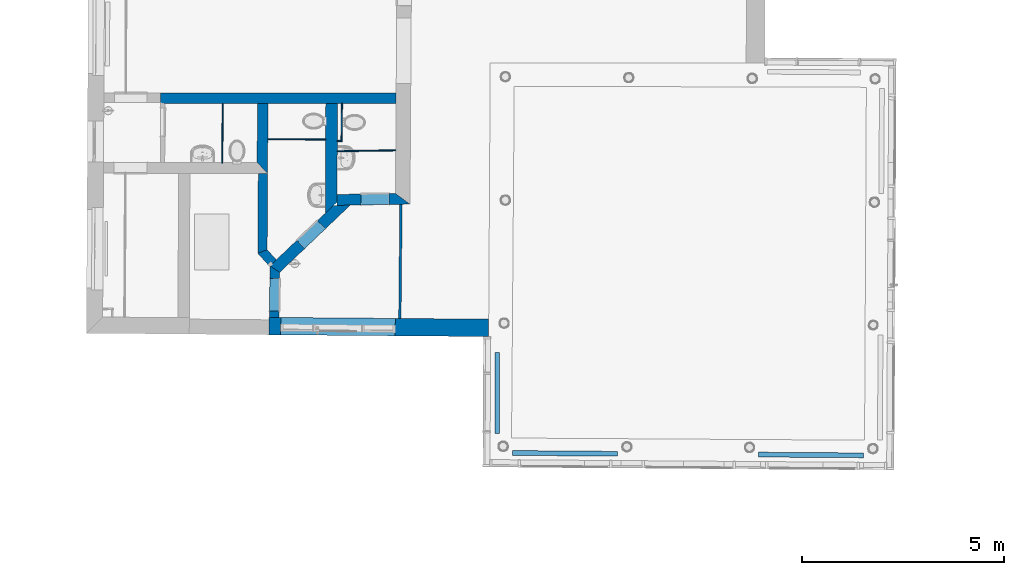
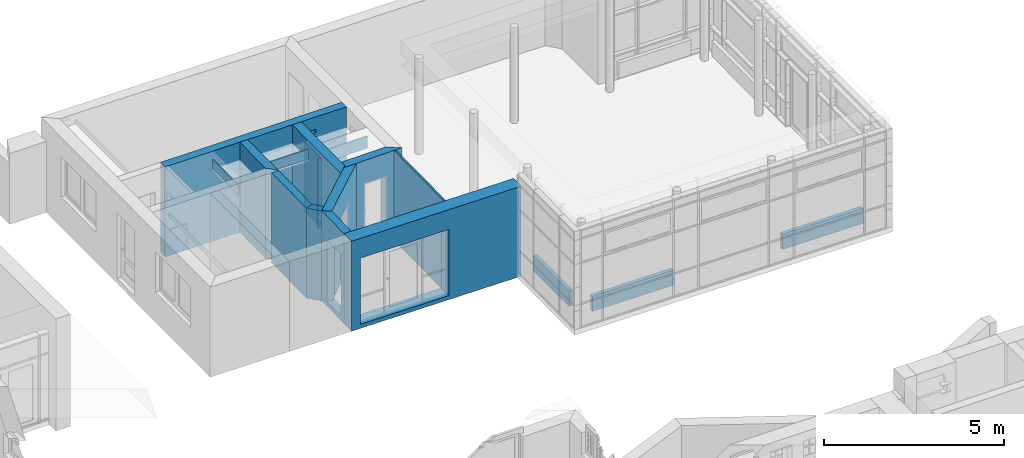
# One storey, part 55 of 196: 18 walls, 5 openings.
"""IFC2X3 building model written with IfcOpenShell, lengths in metres."""

import ifcopenshell
import ifcopenshell.guid

model = None  # the IFC model being written
_history = None  # IfcOwnerHistory: only IFC2X3 demands one
_inside = {}  # id of a spatial element -> (the spatial element, [elements in it])
_under = {}  # id of a project, library or spatial element -> (it, [spatial elements below it])
_declared = {}  # id of a project -> (the project, [libraries it declares])
_typed = {}  # id of a type object -> (the type object, [elements of that type])
_made_of = {}  # id of a material, layer set ... -> (it, [elements and type objects made of it])


def new_model(schema):
    """Start an empty IFC model of exactly this schema.

    Asked for "IFC4X3", IfcOpenShell would pick the latest addendum, in which some entities
    have other attributes; the version numbers below select the first issue.
    IFC2X3 requires an IfcOwnerHistory on every rooted entity: one is made here for all.
    """
    global model, _history
    if schema == "IFC4X3":
        model = ifcopenshell.file(schema_version=(4, 3, 0, 0))
    else:
        model = ifcopenshell.file(schema=schema)
    _inside.clear()
    _under.clear()
    _declared.clear()
    _typed.clear()
    _made_of.clear()
    _history = None
    if model.schema == "IFC2X3":
        org = make("IfcOrganization", Name="unknown")
        user = make(
            "IfcPersonAndOrganization",
            ThePerson=make("IfcPerson", FamilyName="unknown"),
            TheOrganization=org,
        )
        app = make(
            "IfcApplication",
            ApplicationDeveloper=org,
            Version="unknown",
            ApplicationFullName="unknown",
            ApplicationIdentifier="unknown",
        )
        _history = make(
            "IfcOwnerHistory",
            OwningUser=user,
            OwningApplication=app,
            ChangeAction="ADDED",
            CreationDate=0,
        )
    return model


def make(cls, **values):
    """One entity of the class cls with the attributes given. An attribute that is None is left unset."""
    return model.create_entity(
        cls, **{name: value for name, value in values.items() if value is not None}
    )


def entity(cls, *values):
    """Any entity or typed value of the class cls, its attributes in the order of the schema. None: left unset."""
    e = model.create_entity(cls)
    for i, value in enumerate(values):
        if value is not None:
            e[i] = value
    return e


def rooted(cls, **values):
    """An entity with a GlobalId (a new one), such as an element, a storey or a relation."""
    return make(cls, GlobalId=ifcopenshell.guid.new(), OwnerHistory=_history, **values)


def si_unit(unit_type, name, prefix=None):
    """IfcSIUnit, for example si_unit("LENGTHUNIT", "METRE", prefix="MILLI")."""
    return make("IfcSIUnit", UnitType=unit_type, Prefix=prefix, Name=name)


def converted_unit(unit_type, name, factor, base, dimensions=None, offset=None):
    """IfcConversionBasedUnit, such as the inch: factor (a typed value) times the base unit."""
    return make(
        "IfcConversionBasedUnit"
        if offset is None
        else "IfcConversionBasedUnitWithOffset",
        ConversionOffset=offset,
        Dimensions=None
        if dimensions is None
        else entity("IfcDimensionalExponents", *dimensions),
        UnitType=unit_type,
        Name=name,
        ConversionFactor=make(
            "IfcMeasureWithUnit", ValueComponent=factor, UnitComponent=base
        ),
    )


def derived_unit(unit_type, elements):
    """IfcDerivedUnit: a product of units, each with its exponent."""
    return make(
        "IfcDerivedUnit",
        Elements=[
            make("IfcDerivedUnitElement", Unit=unit, Exponent=power)
            for unit, power in elements
        ],
        UnitType=unit_type,
    )


def money_unit(currency):
    """IfcMonetaryUnit."""
    return make("IfcMonetaryUnit", Currency=currency)


def assignment(units):
    """IfcUnitAssignment: the units of a project."""
    return None if units is None else make("IfcUnitAssignment", Units=units)


def point(xyz):
    """IfcCartesianPoint."""
    return None if xyz is None else make("IfcCartesianPoint", Coordinates=xyz)


def direction(xyz):
    """IfcDirection."""
    return None if xyz is None else make("IfcDirection", DirectionRatios=xyz)


def frame(location, z_axis=None, x_axis=None):
    """IfcAxis2Placement3D, a coordinate frame: its origin and axes. An axis left out is left unset."""
    return make(
        "IfcAxis2Placement3D",
        Location=point(location),
        Axis=direction(z_axis),
        RefDirection=direction(x_axis),
    )


def frame_2d(location, x_axis=None):
    """IfcAxis2Placement2D, a coordinate frame in the plane: its origin and x axis."""
    return make(
        "IfcAxis2Placement2D", Location=point(location), RefDirection=direction(x_axis)
    )


def origin_with_axes():
    """The frame at (0, 0, 0) with the z axis (0, 0, 1) and the x axis (1, 0, 0) written out."""
    return frame((0.0, 0.0, 0.0), z_axis=(0.0, 0.0, 1.0), x_axis=(1.0, 0.0, 0.0))


def origin_2d_with_axis():
    """The frame at (0, 0) in the plane with the x axis (1, 0) written out."""
    return frame_2d((0.0, 0.0), x_axis=(1.0, 0.0))


def place(relative_to, where):
    """IfcLocalPlacement: puts the frame where relative to a parent placement (None: the world)."""
    return make(
        "IfcLocalPlacement", PlacementRelTo=relative_to, RelativePlacement=where
    )


def context(
    kind, dimensions, precision=None, world=None, true_north=None, identifier=None
):
    """IfcGeometricRepresentationContext, for example the 3D "Model" context."""
    return make(
        "IfcGeometricRepresentationContext",
        ContextIdentifier=identifier,
        ContextType=kind,
        CoordinateSpaceDimension=dimensions,
        Precision=precision,
        WorldCoordinateSystem=world,
        TrueNorth=true_north,
    )


def subcontext(parent, identifier, kind, view, scale=None):
    """IfcGeometricRepresentationSubContext, for example "Body" below "Model"."""
    return make(
        "IfcGeometricRepresentationSubContext",
        ContextIdentifier=identifier,
        ContextType=kind,
        ParentContext=parent,
        TargetScale=scale,
        TargetView=view,
    )


def project(units=None, contexts=None):
    """IfcProject with its units and contexts."""
    return rooted(
        "IfcProject",
        Name="project",
        RepresentationContexts=contexts,
        UnitsInContext=assignment(units),
    )


def spatial(cls, under=None, at=None, **own):
    """A site, building, storey or space (cls), placed at a placement, below another one or the project."""
    s = rooted(cls, ObjectPlacement=at, **own)
    if under is not None:
        _under.setdefault(under.id(), (under, []))[1].append(s)
    return s


def polyline(points):
    """IfcPolyline through the points."""
    return make("IfcPolyline", Points=[point(p) for p in points])


def profile(cls, at=None, kind="AREA", **sizes):
    """A parametric profile (cls). Its sizes go by their IFC names, for example OverallWidth=200.0."""
    return make(cls, ProfileType=kind, Position=at, **sizes)


def rectangle(**sizes):
    """IfcRectangleProfileDef."""
    return profile("IfcRectangleProfileDef", **sizes)


def outline(outer, holes=None, kind="AREA"):
    """IfcArbitraryClosedProfileDef: a profile drawn as a closed curve; with holes, ...WithVoids."""
    if holes is None:
        return make("IfcArbitraryClosedProfileDef", ProfileType=kind, OuterCurve=outer)
    return make(
        "IfcArbitraryProfileDefWithVoids",
        ProfileType=kind,
        OuterCurve=outer,
        InnerCurves=holes,
    )


def extrude(swept, where, along, depth):
    """IfcExtrudedAreaSolid: the profile swept, set in the frame where, extruded along a direction by depth."""
    return make(
        "IfcExtrudedAreaSolid",
        SweptArea=swept,
        Position=where,
        ExtrudedDirection=direction(along),
        Depth=depth,
    )


def faces_of(points, faces, orient=None, outer=None):
    """IfcFace entities. A face is a list of loops; a loop is a list of indices into points, from 0.

    orient and outer hold one flag for each loop. By default every Orientation is true, the
    first loop of a face is its IfcFaceOuterBound and the others are IfcFaceBound.
    """
    made = []
    for i, loops in enumerate(faces):
        bounds = []
        for j, loop in enumerate(loops):
            is_outer = j == 0 if outer is None else outer[i][j]
            bounds.append(
                make(
                    "IfcFaceOuterBound" if is_outer else "IfcFaceBound",
                    Bound=make("IfcPolyLoop", Polygon=[points[k] for k in loop]),
                    Orientation=True if orient is None else orient[i][j],
                )
            )
        made.append(make("IfcFace", Bounds=bounds))
    return made


def faceted_brep(points, faces, orient=None, outer=None, voids=None):
    """IfcFacetedBrep: a solid bounded by flat faces; with voids (closed shells), ...WithVoids."""
    shared = [point(p) for p in points]
    hull = make("IfcClosedShell", CfsFaces=faces_of(shared, faces, orient, outer))
    if voids is None:
        return make("IfcFacetedBrep", Outer=hull)
    return make(
        "IfcFacetedBrepWithVoids",
        Outer=hull,
        Voids=[
            make(cls, CfsFaces=faces_of(shared, fs, o, b)) for cls, fs, o, b in voids
        ],
    )


def shape(context_of_items, identifier, shape_type, items):
    """IfcShapeRepresentation: the items that make up one representation, for example the "Body"."""
    return make(
        "IfcShapeRepresentation",
        ContextOfItems=context_of_items,
        RepresentationIdentifier=identifier,
        RepresentationType=shape_type,
        Items=items,
    )


def material(Name=None, Category=None):
    """IfcMaterial."""
    return make("IfcMaterial", Name=Name, Category=Category)


def layer(
    of_material, thickness, ventilated=None, Name=None, Category=None, Priority=None
):
    """IfcMaterialLayer: one layer of a wall or slab, of a material (None: an air gap)."""
    return make(
        "IfcMaterialLayer",
        Material=of_material,
        LayerThickness=thickness,
        IsVentilated=ventilated,
        Name=Name,
        Category=Category,
        Priority=Priority,
    )


def layer_set(layers, Name=None):
    """IfcMaterialLayerSet."""
    return make("IfcMaterialLayerSet", MaterialLayers=layers, LayerSetName=Name)


def layer_usage(for_layer_set, set_direction, sense, offset, extent=None):
    """IfcMaterialLayerSetUsage: how a layer set lies in its element."""
    return make(
        "IfcMaterialLayerSetUsage",
        ForLayerSet=for_layer_set,
        LayerSetDirection=set_direction,
        DirectionSense=sense,
        OffsetFromReferenceLine=offset,
        ReferenceExtent=extent,
    )


def made_of(thing, what):
    """Note that an element or type object is made of a material, layer set ...; save() writes the relation."""
    if what is not None:
        _made_of.setdefault(what.id(), (what, []))[1].append(thing)
    return thing


def type_object(cls, material=None, **own):
    """A type object (cls), such as IfcWallType, which elements share."""
    return made_of(rooted(cls, **own), material)


def element(
    cls,
    number,
    at=None,
    inside=None,
    cuts=None,
    type_object=None,
    material=None,
    context=None,
    identifier="Body",
    shape_type=None,
    held_by="IfcProductDefinitionShape",
    body=None,
    shapes=None,
    **own,
):
    """One element of the class cls, such as IfcWall. Its Tag is "e" and its number.

    at: its placement. inside: the storey or other place that contains it. cuts: it is an
    opening in that element (IfcRelVoidsElement). A single representation is given by context,
    identifier, shape_type and body (its items); several are given by shapes. held_by: the class
    of the entity that holds the representations. save() writes the other relations.
    """
    e = rooted(cls, Tag="e%d" % number, ObjectPlacement=at, **own)
    if body is not None:
        shapes = [shape(context, identifier, shape_type, body)]
    if shapes is not None:
        e.Representation = make(held_by, Representations=shapes)
    if inside is not None:
        _inside.setdefault(inside.id(), (inside, []))[1].append(e)
    if cuts is not None:
        rooted(
            "IfcRelVoidsElement", RelatingBuildingElement=cuts, RelatedOpeningElement=e
        )
    if type_object is not None:
        _typed.setdefault(type_object.id(), (type_object, []))[1].append(e)
    return made_of(e, material)


def aggregate(whole, parts):
    """IfcRelAggregates: a whole, such as a stair, and the parts it consists of."""
    return rooted("IfcRelAggregates", RelatingObject=whole, RelatedObjects=parts)


def save(model, path):
    """Write the relations noted so far, then the file.

    IfcRelAggregates (storeys below a building ...), IfcRelContainedInSpatialStructure (elements
    in a storey), IfcRelDefinesByType, IfcRelAssociatesMaterial and IfcRelDeclares: one each for
    every whole, place, type object, material and project.
    """
    for whole, parts in _under.values():
        aggregate(whole, parts)
    for where, things in _inside.values():
        rooted(
            "IfcRelContainedInSpatialStructure",
            RelatedElements=things,
            RelatingStructure=where,
        )
    for kind, things in _typed.values():
        rooted("IfcRelDefinesByType", RelatedObjects=things, RelatingType=kind)
    for what, things in _made_of.values():
        rooted("IfcRelAssociatesMaterial", RelatedObjects=things, RelatingMaterial=what)
    for by, libraries in _declared.values():
        rooted("IfcRelDeclares", RelatingContext=by, RelatedDefinitions=libraries)
    model.write(path)


model = new_model("IFC2X3")

# Units and contexts
model_context = context("Model", 3, precision=1e-05, world=origin_with_axes(), true_north=direction((0.0, 1.0)))
body_context = subcontext(model_context, "Body", "Model", "MODEL_VIEW")
ifc_project = project(units=[si_unit("LENGTHUNIT", "METRE"), si_unit("AREAUNIT", "SQUARE_METRE"), si_unit("VOLUMEUNIT", "CUBIC_METRE"), converted_unit("PLANEANGLEUNIT", "DEGREE", entity("IfcPlaneAngleMeasure", 0.0174532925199), si_unit("PLANEANGLEUNIT", "RADIAN"), dimensions=[0, 0, 0, 0, 0, 0, 0]), money_unit("EUR"), converted_unit("TIMEUNIT", "Year", entity("IfcTimeMeasure", 31556926.0), si_unit("TIMEUNIT", "SECOND"), dimensions=[0, 0, 1, 0, 0, 0, 0]), si_unit("MASSUNIT", "GRAM", prefix="KILO"), si_unit("THERMODYNAMICTEMPERATUREUNIT", "DEGREE_CELSIUS"), si_unit("LUMINOUSINTENSITYUNIT", "LUMEN"), si_unit("ENERGYUNIT", "JOULE", prefix="MEGA"), derived_unit("THERMALCONDUCTANCEUNIT", [(si_unit("POWERUNIT", "WATT"), 1), (si_unit("LENGTHUNIT", "METRE"), -1), (si_unit("THERMODYNAMICTEMPERATUREUNIT", "KELVIN"), -1)]), derived_unit("SPECIFICHEATCAPACITYUNIT", [(si_unit("ENERGYUNIT", "JOULE"), 1), (si_unit("MASSUNIT", "GRAM", prefix="KILO"), -1), (si_unit("THERMODYNAMICTEMPERATUREUNIT", "KELVIN"), -1)]), derived_unit("MASSDENSITYUNIT", [(si_unit("MASSUNIT", "GRAM", prefix="KILO"), 1), (si_unit("VOLUMEUNIT", "CUBIC_METRE"), -1)])], contexts=[model_context])

# Site, building, storey
site_placement = place(None, origin_with_axes())
site = spatial("IfcSite", under=ifc_project, at=site_placement, Name="Gelände", CompositionType="ELEMENT")
building_placement = place(site_placement, origin_with_axes())
building = spatial("IfcBuilding", under=site, at=building_placement, Name="Gebäude", CompositionType="ELEMENT")
storey_placement = place(building_placement, frame((0.0, 0.0, -3.0), z_axis=(0.0, 0.0, 1.0), x_axis=(1.0, 0.0, 0.0)))
storey = spatial("IfcBuildingStorey", under=building, at=storey_placement, Name="KELLERGESCHOSS", CompositionType="ELEMENT", Elevation=-3.0)

# Wall, opening
ifc_material_1 = material(Name="05_ALLGEMEIN - TRAGENDE BAUTEILE")
ifc_layer_1 = layer(ifc_material_1, 0.28, ventilated="UNKNOWN")
ifc_layer_set_1 = layer_set([ifc_layer_1], Name="05_ALLGEMEIN - TRAGENDE BAUTEILE 0.28")
ifc_layer_usage_1 = layer_usage(ifc_layer_set_1, "AXIS2", "POSITIVE", 0.0)
wall_type_1 = type_object("IfcWallType", Name="05_ALLGEMEIN - TRAGENDE BAUTEILE 280", PredefinedType="ELEMENTEDWALL")
wall_1_placement = place(storey_placement, frame((-4.68294172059, 42.2519038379, 0.44), z_axis=(0.0, 0.0, 1.0), x_axis=(-0.724111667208, -0.68968274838, 0.0)))
wall_1 = element("IfcWallStandardCase", 1, at=wall_1_placement, inside=storey, type_object=wall_type_1, material=ifc_layer_usage_1, Name="Wand-031", ObjectType="ELEMENTEDWALL", context=body_context, shape_type="SweptSolid", body=[
    extrude(outline(polyline([(0.0, 0.0), (2.16627254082, 0.0), (2.105137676, 0.28), (-0.304052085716, 0.28), (0.0, 0.0)])), origin_with_axes(), (0.0, 0.0, 1.0), 3.06),
])
opening_1_placement = place(wall_1_placement, frame((0.898385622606, 0.0, 0.17), z_axis=(0.0, 0.0, 1.0), x_axis=(1.0, 0.0, 0.0)))
element("IfcOpeningElement", 2, at=opening_1_placement, cuts=wall_1, Name="Tür-022", context=body_context, shape_type="SweptSolid", body=[
    extrude(rectangle(XDim=0.705739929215, YDim=2.10081922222, at=origin_2d_with_axis()), frame((0.0, -0.28, 1.05040961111), z_axis=(0.0, -1.0, 0.0), x_axis=(1.0, 0.0, 0.0)), (0.0, 0.0, -1.0), 0.84),
])

ifc_layer_2 = layer(ifc_material_1, 0.26, ventilated="UNKNOWN")
ifc_layer_set_2 = layer_set([ifc_layer_2], Name="05_ALLGEMEIN - TRAGENDE BAUTEILE 0.26")
ifc_layer_usage_2 = layer_usage(ifc_layer_set_2, "AXIS2", "NEGATIVE", 0.26)
wall_type_2 = type_object("IfcWallType", Name="05_ALLGEMEIN - TRAGENDE BAUTEILE 260", PredefinedType="ELEMENTEDWALL")
wall_2_placement = place(storey_placement, frame((-2.77325327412, 45.0341375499, 0.44), z_axis=(0.0, 0.0, 1.0), x_axis=(-0.999999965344, -0.00026327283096, 0.0)))
wall_2 = element("IfcWallStandardCase", 3, at=wall_2_placement, inside=storey, type_object=wall_type_2, material=ifc_layer_usage_2, Name="Wand-031", ObjectType="ELEMENTEDWALL", context=body_context, shape_type="SweptSolid", body=[
    extrude(outline(polyline([(0.360008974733, 0.0), (6.18795396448, 0.0), (6.18795396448, 0.26), (0.36184488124, 0.26), (0.360008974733, 0.0)])), origin_with_axes(), (0.0, 0.0, 1.0), 3.06),
])
opening_2_placement = place(wall_2_placement, frame((1.54268567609, 0.0, 2.53435233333), z_axis=(0.0, 0.0, 1.0), x_axis=(1.0, 0.0, 0.0)))
element("IfcOpeningElement", 4, at=opening_2_placement, cuts=wall_2, Name="Fenster-016", context=body_context, shape_type="SweptSolid", body=[
    extrude(rectangle(XDim=0.400875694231, YDim=0.105116, at=origin_2d_with_axis()), frame((0.0, -0.26, 0.052558), z_axis=(0.0, -1.0, 0.0), x_axis=(1.0, 0.0, 0.0)), (0.0, 0.0, -1.0), 0.78),
])

ifc_layer_3 = layer(ifc_material_1, 0.43, ventilated="UNKNOWN")
ifc_layer_set_3 = layer_set([ifc_layer_3], Name="05_ALLGEMEIN - TRAGENDE BAUTEILE 0.43")
ifc_layer_usage_3 = layer_usage(ifc_layer_set_3, "AXIS2", "NEGATIVE", 0.43)
wall_type_3 = type_object("IfcWallType", Name="05_ALLGEMEIN - TRAGENDE BAUTEILE 430", PredefinedType="ELEMENTEDWALL")
wall_3_placement = place(storey_placement, frame((-6.27974808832, 39.0519941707, 0.44), z_axis=(0.0, 0.0, 1.0), x_axis=(0.99996602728, -0.0082428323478, 0.0)))
wall_3 = element("IfcWallStandardCase", 5, at=wall_3_placement, inside=storey, type_object=wall_type_3, material=ifc_layer_usage_3, Name="Wand-031", ObjectType="ELEMENTEDWALL", context=body_context, shape_type="SweptSolid", body=[
    extrude(outline(polyline([(0.0, 0.0), (5.43319807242, 0.0), (5.43319807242, 0.43), (0.0, 0.43), (0.0, 0.0)])), origin_with_axes(), (0.0, 0.0, 1.0), 3.06),
])
opening_3_placement = place(wall_3_placement, frame((1.70555894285, 0.0, 0.137676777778), z_axis=(0.0, 0.0, 1.0), x_axis=(1.0, 0.0, 0.0)))
element("IfcOpeningElement", 6, at=opening_3_placement, cuts=wall_3, Name="Tür-022", context=body_context, shape_type="SweptSolid", body=[
    extrude(rectangle(XDim=2.8326016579, YDim=2.250818, at=origin_2d_with_axis()), frame((0.0, 0.4, 1.125409), z_axis=(0.0, 1.0, 0.0), x_axis=(1.0, 0.0, 0.0)), (0.0, 0.0, -1.0), 0.83),
    extrude(rectangle(XDim=2.8326016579, YDim=2.250818, at=origin_2d_with_axis()), frame((0.0, 0.4, 1.125409), z_axis=(0.0, -1.0, 0.0), x_axis=(1.0, 0.0, 0.0)), (0.0, 0.0, -1.0), 0.46),
])

# Walls
ifc_material_2 = material(Name="43_Gipskarton")
ifc_layer_4 = layer(ifc_material_2, 0.03, ventilated="UNKNOWN")
ifc_layer_set_4 = layer_set([ifc_layer_4], Name="43_Gipskarton 0.03")
ifc_layer_usage_4 = layer_usage(ifc_layer_set_4, "AXIS2", "NEGATIVE", 0.03)
wall_type_4 = type_object("IfcWallType", Name="43_Gipskarton 30", PredefinedType="ELEMENTEDWALL")
wall_4_placement = place(storey_placement, frame((-4.8788855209, 43.8243895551, 0.44), z_axis=(0.0, 0.0, 1.0), x_axis=(0.999869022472, 0.0161844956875, 0.0)))
element("IfcWallStandardCase", 7, at=wall_4_placement, inside=storey, type_object=wall_type_4, material=ifc_layer_usage_4, Name="Wand-031", ObjectType="ELEMENTEDWALL", context=body_context, shape_type="SweptSolid", body=[
    extrude(outline(polyline([(0.290062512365, 0.0), (0.409692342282, 0.0), (0.380501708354, 0.03), (0.290685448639, 0.03), (0.290062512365, 0.0)])), origin_with_axes(), (0.0, 0.0, 1.0), 2.37),
])
ifc_layer_usage_5 = layer_usage(ifc_layer_set_4, "AXIS2", "NEGATIVE", 0.03)
wall_5_placement = place(storey_placement, frame((-4.46924683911, 43.831020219, 0.44), z_axis=(0.0, 0.0, 1.0), x_axis=(0.0111606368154, 0.999937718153, 0.0)))
element("IfcWallStandardCase", 8, at=wall_5_placement, inside=storey, type_object=wall_type_4, material=ifc_layer_usage_5, Name="Wand-032", ObjectType="ELEMENTEDWALL", context=body_context, shape_type="SweptSolid", body=[
    extrude(outline(polyline([(0.0, 0.0), (0.942732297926, 0.0), (0.942389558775, 0.03), (0.0291906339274, 0.03), (0.0, 0.0)])), origin_with_axes(), (0.0, 0.0, 1.0), 2.37),
])
ifc_layer_usage_6 = layer_usage(ifc_layer_set_4, "AXIS2", "NEGATIVE", 0.03)
wall_6_placement = place(storey_placement, frame((-7.43594164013, 44.7729099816, 2.9), z_axis=(0.0, 0.0, 1.0), x_axis=(-0.0115719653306, -0.999933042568, 0.0)))
element("IfcWallStandardCase", 9, at=wall_6_placement, inside=storey, type_object=wall_type_4, material=ifc_layer_usage_6, Name="Wand-049", ObjectType="ELEMENTEDWALL", context=body_context, shape_type="SweptSolid", body=[
    extrude(outline(polyline([(0.0, 0.0), (1.4715223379, 0.0), (1.4715223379, 0.03), (0.0, 0.03), (0.0, 0.0)])), origin_with_axes(), (0.0, 0.0, 1.0), 0.32),
])
ifc_layer_usage_7 = layer_usage(ifc_layer_set_4, "AXIS2", "NEGATIVE", 0.03)
wall_7_placement = place(storey_placement, frame((-6.30934532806, 43.8720703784, 2.88), z_axis=(0.0, 0.0, 1.0), x_axis=(0.99999839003, -0.00179441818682, 0.0)))
element("IfcWallStandardCase", 10, at=wall_7_placement, inside=storey, type_object=wall_type_4, material=ifc_layer_usage_7, Name="Wand-050", ObjectType="ELEMENTEDWALL", context=body_context, shape_type="SweptSolid", body=[
    extrude(outline(polyline([(0.0, 0.0), (1.43066856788, 0.0), (1.43075202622, 0.03), (0.000105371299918, 0.03), (0.0, 0.0)])), origin_with_axes(), (0.0, 0.0, 1.0), 0.34),
])
ifc_layer_usage_8 = layer_usage(ifc_layer_set_4, "AXIS2", "NEGATIVE", 0.0)
wall_8_placement = place(storey_placement, frame((-4.58987175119, 43.6082245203, 2.81), z_axis=(0.0, 0.0, 1.0), x_axis=(0.999894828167, 0.0145028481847, 0.0)))
element("IfcWallStandardCase", 11, at=wall_8_placement, inside=storey, type_object=wall_type_4, material=ifc_layer_usage_8, Name="Wand-051", ObjectType="ELEMENTEDWALL", context=body_context, shape_type="SweptSolid", body=[
    extrude(outline(polyline([(0.0, -0.03), (1.44721183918, -0.03), (1.44721183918, 0.0), (0.0, 0.0), (0.0, -0.03)])), origin_with_axes(), (0.0, 0.0, 1.0), 0.41),
])
ifc_layer_5 = layer(ifc_material_1, 0.06, ventilated="UNKNOWN")
ifc_layer_set_5 = layer_set([ifc_layer_5], Name="05_ALLGEMEIN - TRAGENDE BAUTEILE 0.06")
ifc_layer_usage_9 = layer_usage(ifc_layer_set_5, "AXIS2", "NEGATIVE", 0.06)
wall_type_5 = type_object("IfcWallType", Name="05_ALLGEMEIN - TRAGENDE BAUTEILE 60", PredefinedType="ELEMENTEDWALL")
wall_9_placement = place(storey_placement, frame((-3.01501922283, 39.0250826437, 0.44), z_axis=(0.0, 0.0, 1.0), x_axis=(0.00942799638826, 0.999955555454, 0.0)))
element("IfcWallStandardCase", 12, at=wall_9_placement, inside=storey, type_object=wall_type_5, material=ifc_layer_usage_9, Name="Wand-031", ObjectType="ELEMENTEDWALL", context=body_context, shape_type="SweptSolid", body=[
    extrude(outline(polyline([(0.430000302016, 0.0), (3.25552369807, 0.0), (3.2539489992, 0.06), (0.42992918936, 0.06), (0.430000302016, 0.0)])), origin_with_axes(), (0.0, 0.0, 1.0), 3.06),
])

# Wall, opening
ifc_layer_6 = layer(ifc_material_1, 0.27, ventilated="UNKNOWN")
ifc_layer_set_6 = layer_set([ifc_layer_6], Name="05_ALLGEMEIN - TRAGENDE BAUTEILE 0.27")
ifc_layer_usage_10 = layer_usage(ifc_layer_set_6, "AXIS2", "NEGATIVE", 0.0)
wall_type_6 = type_object("IfcWallType", Name="05_ALLGEMEIN - TRAGENDE BAUTEILE 270", PredefinedType="ELEMENTEDWALL")
wall_10_placement = place(storey_placement, frame((-2.79195048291, 42.2836959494, 0.44), z_axis=(0.0, 0.0, 1.0), x_axis=(-0.999858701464, -0.016810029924, 0.0)))
wall_10 = element("IfcWallStandardCase", 13, at=wall_10_placement, inside=storey, type_object=wall_type_6, material=ifc_layer_usage_10, Name="Wand-032", ObjectType="ELEMENTEDWALL", context=body_context, shape_type="SweptSolid", body=[
    extrude(outline(polyline([(0.353724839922, -0.27), (1.79860116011, -0.27), (1.80437657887, 0.0), (0.0, 0.0), (0.353724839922, -0.27)])), origin_with_axes(), (0.0, 0.0, 1.0), 3.06),
])
opening_4_placement = place(wall_10_placement, frame((0.864260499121, 0.0, 0.17), z_axis=(0.0, 0.0, 1.0), x_axis=(1.0, 0.0, 0.0)))
element("IfcOpeningElement", 14, at=opening_4_placement, cuts=wall_10, Name="Tür-022", context=body_context, shape_type="SweptSolid", body=[
    extrude(rectangle(XDim=0.689557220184, YDim=2.10050922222, at=origin_2d_with_axis()), frame((0.0, -0.27, 1.05025461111), z_axis=(0.0, 1.0, 0.0), x_axis=(-1.0, 0.0, 0.0)), (0.0, 0.0, 1.0), 0.81),
])

ifc_layer_7 = layer(ifc_material_1, 0.24, ventilated="UNKNOWN")
ifc_layer_set_7 = layer_set([ifc_layer_7], Name="05_ALLGEMEIN - TRAGENDE BAUTEILE 0.24")
ifc_layer_usage_11 = layer_usage(ifc_layer_set_7, "AXIS2", "POSITIVE", 0.0)
wall_type_7 = type_object("IfcWallType", Name="05_ALLGEMEIN - TRAGENDE BAUTEILE 240", PredefinedType="ELEMENTEDWALL")
wall_11_placement = place(storey_placement, frame((-6.25156494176, 40.7578630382, 0.44), z_axis=(0.0, 0.0, 1.0), x_axis=(-0.0165190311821, -0.999863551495, 0.0)))
wall_11 = element("IfcWallStandardCase", 15, at=wall_11_placement, inside=storey, type_object=wall_type_7, material=ifc_layer_usage_11, Name="Wand-031", ObjectType="ELEMENTEDWALL", context=body_context, shape_type="SweptSolid", body=[
    extrude(outline(polyline([(0.0, 0.0), (1.27608693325, 0.0), (1.27410044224, 0.24), (0.156644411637, 0.24), (0.0, 0.0)])), origin_with_axes(), (0.0, 0.0, 1.0), 3.06),
])
opening_5_placement = place(wall_11_placement, frame((0.71684124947, 0.0, 0.16), z_axis=(0.0, 0.0, 1.0), x_axis=(1.0, 0.0, 0.0)))
element("IfcOpeningElement", 16, at=opening_5_placement, cuts=wall_11, Name="Tür-022", context=body_context, shape_type="Brep", body=[
    faceted_brep([(0.403099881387, 0.24, 0.0), (0.403099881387, 0.24, 2.09074422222), (0.403099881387, -0.48, 2.09074422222), (0.403099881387, -0.48, 0.0), (-0.403099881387, 0.24, 0.0), (-0.403099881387, 0.24, 2.09074422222), (-0.403099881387, -0.48, 2.09074422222), (-0.403099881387, -0.48, 0.0)], [[[0, 1, 2, 3]], [[0, 4, 5, 1]], [[1, 5, 6, 2]], [[3, 2, 6, 7]], [[4, 0, 3, 7]], [[5, 4, 7, 6]]]),
])

# Walls
ifc_layer_8 = layer(ifc_material_2, 0.23, ventilated="UNKNOWN")
ifc_layer_set_8 = layer_set([ifc_layer_8], Name="43_Gipskarton 0.23")
ifc_layer_usage_12 = layer_usage(ifc_layer_set_8, "AXIS2", "POSITIVE", -0.23)
wall_type_8 = type_object("IfcWallType", Name="43_Gipskarton 230", PredefinedType="ELEMENTEDWALL")
wall_12_placement = place(storey_placement, frame((-6.31230324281, 43.3146916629, 0.44), z_axis=(0.0, 0.0, 1.0), x_axis=(-0.00530675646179, -0.999985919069, 0.0)))
element("IfcWallStandardCase", 17, at=wall_12_placement, inside=storey, type_object=wall_type_8, material=ifc_layer_usage_12, Name="Wand-032", ObjectType="ELEMENTEDWALL", context=body_context, shape_type="SweptSolid", body=[
    extrude(outline(polyline([(0.271019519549, -0.23), (2.24821642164, -0.23), (2.15914233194, 0.0), (0.270002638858, 0.0), (0.271019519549, -0.23)])), origin_with_axes(), (0.0, 0.0, 1.0), 3.06),
])
ifc_layer_usage_13 = layer_usage(ifc_layer_set_8, "AXIS2", "NEGATIVE", 0.23)
wall_13_placement = place(storey_placement, frame((-6.09749473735, 40.9046077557, 0.44), z_axis=(0.0, 0.0, 1.0), x_axis=(-0.669605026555, 0.742717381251, 0.0)))
element("IfcWallStandardCase", 18, at=wall_13_placement, inside=storey, type_object=wall_type_8, material=ifc_layer_usage_13, Name="Wand-032", ObjectType="ELEMENTEDWALL", context=body_context, shape_type="SweptSolid", body=[
    extrude(outline(polyline([(0.0, 0.0), (0.33791046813, 0.0), (0.42698455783, 0.23), (-0.00629758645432, 0.23), (0.0, 0.0)])), origin_with_axes(), (0.0, 0.0, 1.0), 3.06),
])
ifc_material_3 = material(Name="01_ALLGEMEIN - BAUTEIL")
ifc_layer_9 = layer(ifc_material_3, 0.12, ventilated="UNKNOWN")
ifc_layer_set_9 = layer_set([ifc_layer_9], Name="01_ALLGEMEIN - BAUTEIL 0.12")
ifc_layer_usage_14 = layer_usage(ifc_layer_set_9, "AXIS2", "NEGATIVE", 0.12)
wall_type_9 = type_object("IfcWallType", Name="01_ALLGEMEIN - BAUTEIL 120", PredefinedType="ELEMENTEDWALL")
wall_14_placement = place(storey_placement, frame((8.42674476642, 36.1287693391, 0.812562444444), z_axis=(0.0, 0.0, 1.0), x_axis=(-0.999973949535, 0.00721805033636, 0.0)))
element("IfcWallStandardCase", 19, at=wall_14_placement, inside=storey, type_object=wall_type_9, material=ifc_layer_usage_14, Name="Wand-033", ObjectType="ELEMENTEDWALL", context=body_context, shape_type="SweptSolid", body=[
    extrude(outline(polyline([(0.0, 0.0), (2.59127506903, 0.0), (2.59127506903, 0.12), (0.0, 0.12), (0.0, 0.0)])), origin_with_axes(), (0.0, 0.0, 1.0), 0.516129),
])
ifc_layer_usage_15 = layer_usage(ifc_layer_set_9, "AXIS2", "NEGATIVE", 0.12)
wall_15_placement = place(storey_placement, frame((2.34473696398, 36.1674425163, 0.812562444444), z_axis=(0.0, 0.0, 1.0), x_axis=(-0.999969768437, 0.00777574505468, 0.0)))
element("IfcWallStandardCase", 20, at=wall_15_placement, inside=storey, type_object=wall_type_9, material=ifc_layer_usage_15, Name="Wand-034", ObjectType="ELEMENTEDWALL", context=body_context, shape_type="SweptSolid", body=[
    extrude(outline(polyline([(0.0, 0.0), (2.59817393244, 0.0), (2.59817393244, 0.12), (0.0, 0.12), (0.0, 0.0)])), origin_with_axes(), (0.0, 0.0, 1.0), 0.516129),
])
ifc_layer_usage_16 = layer_usage(ifc_layer_set_9, "AXIS2", "NEGATIVE", 0.12)
wall_16_placement = place(storey_placement, frame((-0.573623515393, 36.6125441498, 0.812562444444), z_axis=(0.0, 0.0, 1.0), x_axis=(0.000837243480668, 0.999999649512, 0.0)))
element("IfcWallStandardCase", 21, at=wall_16_placement, inside=storey, type_object=wall_type_9, material=ifc_layer_usage_16, Name="Wand-035", ObjectType="ELEMENTEDWALL", context=body_context, shape_type="SweptSolid", body=[
    extrude(outline(polyline([(0.0, 0.0), (1.9958848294, 0.0), (1.9958848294, 0.12), (0.0, 0.12), (0.0, 0.0)])), origin_with_axes(), (0.0, 0.0, 1.0), 0.516129),
])
ifc_layer_10 = layer(ifc_material_2, 0.29, ventilated="UNKNOWN")
ifc_layer_set_10 = layer_set([ifc_layer_10], Name="43_Gipskarton 0.29")
ifc_layer_usage_17 = layer_usage(ifc_layer_set_10, "AXIS2", "NEGATIVE", 0.29)
wall_type_10 = type_object("IfcWallType", Name="43_Gipskarton 290", PredefinedType="ELEMENTEDWALL")
wall_17_placement = place(storey_placement, frame((-4.87335177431, 45.033584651, 0.44), z_axis=(0.0, 0.0, 1.0), x_axis=(-0.00457634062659, -0.999989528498, 0.0)))
element("IfcWallStandardCase", 22, at=wall_17_placement, inside=storey, type_object=wall_type_10, material=ifc_layer_usage_17, Name="Wand-031", ObjectType="ELEMENTEDWALL", context=body_context, shape_type="SweptSolid", body=[
    extrude(outline(polyline([(0.260003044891, 0.0), (2.9760405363, 0.0), (2.6972868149, 0.29), (0.258599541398, 0.29), (0.260003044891, 0.0)])), origin_with_axes(), (0.0, 0.0, 1.0), 3.06),
])
ifc_layer_11 = layer(ifc_material_2, 0.26, ventilated="UNKNOWN")
ifc_layer_set_11 = layer_set([ifc_layer_11], Name="43_Gipskarton 0.26")
ifc_layer_usage_18 = layer_usage(ifc_layer_set_11, "AXIS2", "POSITIVE", -0.26)
wall_type_11 = type_object("IfcWallType", Name="43_Gipskarton 260", PredefinedType="ELEMENTEDWALL")
wall_18_placement = place(storey_placement, frame((-6.30318336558, 45.0332082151, 0.44), z_axis=(0.0, 0.0, 1.0), x_axis=(-0.00530675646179, -0.999985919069, 0.0)))
element("IfcWallStandardCase", 23, at=wall_18_placement, inside=storey, type_object=wall_type_11, material=ifc_layer_usage_18, Name="Wand-032", ObjectType="ELEMENTEDWALL", context=body_context, shape_type="SweptSolid", body=[
    extrude(outline(polyline([(0.261452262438, -0.26), (1.71969026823, -0.26), (1.98854338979, 0.0), (0.260004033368, 0.0), (0.261452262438, -0.26)])), origin_with_axes(), (0.0, 0.0, 1.0), 3.06),
])

save(model, "model.ifc")
